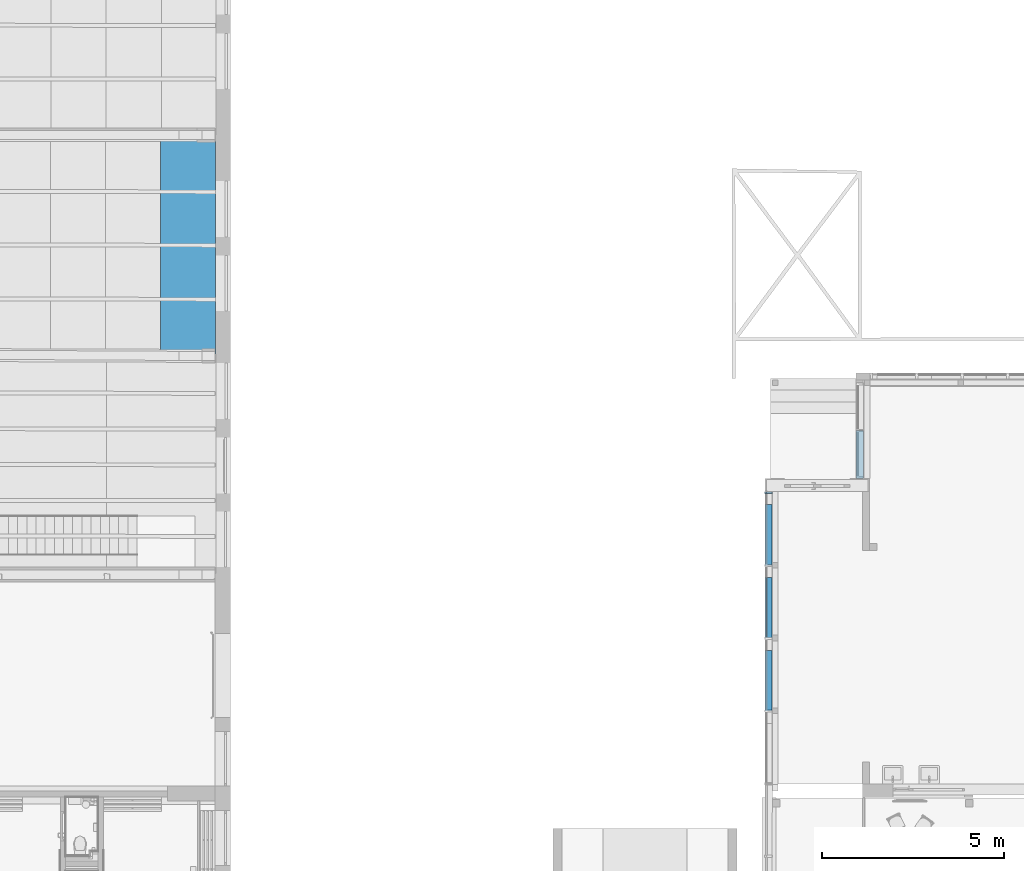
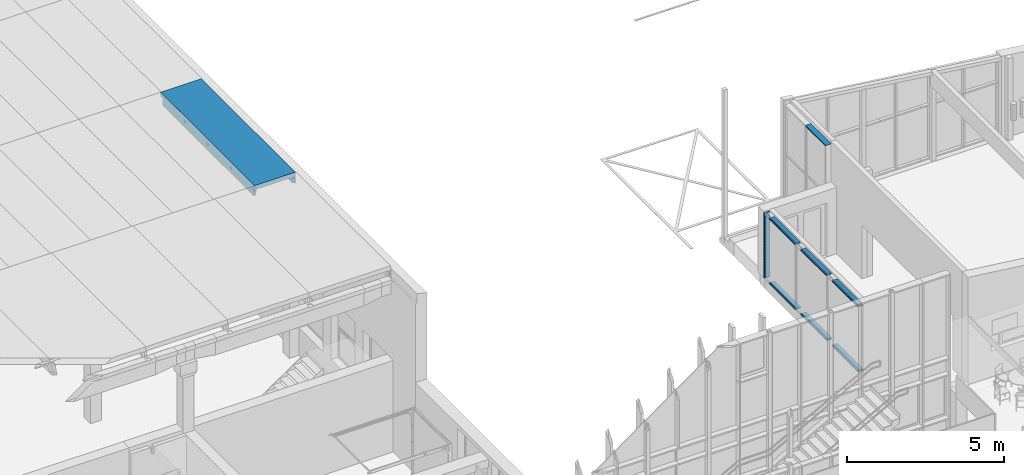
# One storey, part 43 of 301: 8 members, 1 beam, 2 elements without a shape of their own.
"""IFC2X3 building model written with IfcOpenShell, lengths in millimetres."""

from ifc_helpers import new_model, entity, si_unit, converted_unit, derived_unit, money_unit, direction, frame, origin_with_axes, place, context, subcontext, project, spatial, faceted_brep, material, type_object, element, aggregate, save


model = new_model("IFC2X3")

# Units and contexts
model_context = context("Model", 3, precision=0.01, world=origin_with_axes(), true_north=direction((0.0, 1.0)))
body_context = subcontext(model_context, "Body", "Model", "MODEL_VIEW")
ifc_project = project(units=[si_unit("LENGTHUNIT", "METRE", prefix="MILLI"), si_unit("AREAUNIT", "SQUARE_METRE"), si_unit("VOLUMEUNIT", "CUBIC_METRE"), converted_unit("PLANEANGLEUNIT", "DEGREE", entity("IfcPlaneAngleMeasure", 0.0174532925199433), si_unit("PLANEANGLEUNIT", "RADIAN"), dimensions=[0, 0, 0, 0, 0, 0, 0]), money_unit("EUR"), converted_unit("TIMEUNIT", "Year", entity("IfcTimeMeasure", 31557600.0), si_unit("TIMEUNIT", "SECOND"), dimensions=[0, 0, 1, 0, 0, 0, 0]), si_unit("MASSUNIT", "GRAM", prefix="KILO"), si_unit("THERMODYNAMICTEMPERATUREUNIT", "DEGREE_CELSIUS"), si_unit("LUMINOUSINTENSITYUNIT", "LUMEN"), si_unit("ENERGYUNIT", "JOULE", prefix="MEGA"), derived_unit("THERMALCONDUCTANCEUNIT", [(si_unit("POWERUNIT", "WATT"), 1), (si_unit("LENGTHUNIT", "METRE"), -1), (si_unit("THERMODYNAMICTEMPERATUREUNIT", "KELVIN"), -1)]), derived_unit("SPECIFICHEATCAPACITYUNIT", [(si_unit("ENERGYUNIT", "JOULE"), 1), (si_unit("MASSUNIT", "GRAM", prefix="KILO"), -1), (si_unit("THERMODYNAMICTEMPERATUREUNIT", "KELVIN"), -1)]), derived_unit("MASSDENSITYUNIT", [(si_unit("MASSUNIT", "GRAM", prefix="KILO"), 1), (si_unit("VOLUMEUNIT", "CUBIC_METRE"), -1)])], contexts=[model_context])

# Site, building, storey
site_placement = place(None, frame((0.0, 0.0, 8650.0), z_axis=(0.0, 0.0, 1.0), x_axis=(1.0, 0.0, 0.0)))
site = spatial("IfcSite", under=ifc_project, at=site_placement, Name="43301:001:0844", CompositionType="ELEMENT")
building_placement = place(site_placement, origin_with_axes())
building = spatial("IfcBuilding", under=site, at=building_placement, Name="Kuressaare Ametikooli tuulikute mehaanikute õppekorpus", CompositionType="ELEMENT")
storey_placement = place(building_placement, origin_with_axes())
storey = spatial("IfcBuildingStorey", under=building, at=storey_placement, Name="1.korrus", CompositionType="ELEMENT", Elevation=0.0)

# Curtain wall, members
curtain_wall_type = type_object("IfcCurtainWallType", Name="Curtain Wall Type", PredefinedType="NOTDEFINED")
curtain_wall_1_placement = place(storey_placement, frame((118344.5490393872, 39517.28066569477, -20.0), z_axis=(0.0, 0.0, 1.0), x_axis=(1.0, 0.0, 0.0)))
curtain_wall_1 = element("IfcCurtainWall", 1, at=curtain_wall_1_placement, inside=storey, type_object=curtain_wall_type, Name="KF-XX")
ifc_material_1 = material(Name="Metall - Alumiinium")
member_type_1 = type_object("IfcMemberType", Name="Boundary Frame 50 x 200", PredefinedType="NOTDEFINED")
member_1_placement = place(curtain_wall_1_placement, frame((0.0, 449.9803372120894, 0.0), z_axis=(0.0, -1.0, 0.0), x_axis=(0.0, 0.0, 1.0)))
member_1 = element("IfcMember", 2, at=member_1_placement, type_object=member_type_1, material=ifc_material_1, context=body_context, shape_type="Brep", body=[
    faceted_brep([(35.00000000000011, -10.00000000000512, 1676.514106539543), (35.00000000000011, 10.00000000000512, 1676.514106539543), (50.00000000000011, 10.00000000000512, 1676.514106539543), (50.00000000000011, 49.99999999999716, 1676.514106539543), (0.0, 49.99999999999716, 1676.514106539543), (0.0, 0.0, 1676.514106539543), (0.0, -150.0000000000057, 1676.514106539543), (50.0000000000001, -150.0000000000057, 1676.514106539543), (50.00000000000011, -10.00000000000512, 1676.514106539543), (35.0, -10.00000000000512, 0.0), (35.0, 10.00000000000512, 0.0), (50.0, 10.00000000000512, 0.0), (50.0, 49.99999999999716, 0.0), (0.0, 49.99999999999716, 0.0), (0.0, 0.0, 0.0), (0.0, -150.0000000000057, 0.0), (49.99999999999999, -150.0000000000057, 0.0), (50.0, -10.00000000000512, 0.0)], [[[0, 1, 2, 3, 4, 5, 6, 7, 8]], [[1, 0, 9, 10]], [[11, 2, 1, 10]], [[2, 11, 12, 3]], [[13, 4, 3, 12]], [[14, 5, 4, 13]], [[15, 6, 5, 14]], [[16, 7, 6, 15]], [[17, 8, 7, 16]], [[0, 8, 17, 9]], [[9, 17, 16, 15, 14, 13, 12, 11, 10]]]),
])
member_2_placement = place(curtain_wall_1_placement, frame((0.0, -3550.01966278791, 0.0), z_axis=(0.0, -1.0, 0.0), x_axis=(0.0, 0.0, 1.0)))
member_2 = element("IfcMember", 3, at=member_2_placement, type_object=member_type_1, material=ifc_material_1, context=body_context, shape_type="Brep", body=[
    faceted_brep([(35.00000000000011, -10.00000000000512, 1662.657468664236), (35.00000000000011, 10.00000000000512, 1662.657468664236), (50.00000000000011, 10.00000000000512, 1662.657468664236), (50.00000000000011, 49.99999999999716, 1662.657468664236), (0.0, 49.99999999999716, 1662.657468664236), (0.0, 0.0, 1662.657468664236), (0.0, -150.0000000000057, 1662.657468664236), (50.0000000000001, -150.0000000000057, 1662.657468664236), (50.00000000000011, -10.00000000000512, 1662.657468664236), (35.0, -10.00000000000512, 0.0), (35.0, 10.00000000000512, 0.0), (50.0, 10.00000000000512, 0.0), (50.0, 49.99999999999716, 0.0), (0.0, 49.99999999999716, 0.0), (0.0, 0.0, 0.0), (0.0, -150.0000000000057, 0.0), (49.99999999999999, -150.0000000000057, 0.0), (50.0, -10.00000000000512, 0.0)], [[[0, 1, 2, 3, 4, 5, 6, 7, 8]], [[1, 0, 9, 10]], [[11, 2, 1, 10]], [[2, 11, 12, 3]], [[13, 4, 3, 12]], [[14, 5, 4, 13]], [[15, 6, 5, 14]], [[16, 7, 6, 15]], [[17, 8, 7, 16]], [[0, 8, 17, 9]], [[9, 17, 16, 15, 14, 13, 12, 11, 10]]]),
])
member_3_placement = place(curtain_wall_1_placement, frame((0.0, 776.5534321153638, 2530.000039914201), z_axis=(0.0, 0.0, -1.0), x_axis=(0.0, -1.0, 0.0)))
member_3 = element("IfcMember", 4, at=member_3_placement, type_object=member_type_1, material=ifc_material_1, context=body_context, shape_type="Brep", body=[
    faceted_brep([(-9.99999999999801, -10.00000000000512, 2510.000039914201), (-24.99999999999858, -10.00000000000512, 2480.000039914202), (-24.99999999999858, -150.0000000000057, 2480.000039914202), (0.0, -150.0000000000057, 2530.000039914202), (0.0, 49.99999999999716, 2530.000039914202), (-24.99999999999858, 49.99999999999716, 2480.000039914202), (-24.99999999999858, 10.00000000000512, 2480.000039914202), (-9.99999999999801, 10.00000000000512, 2510.000039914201), (-9.99999999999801, -10.00000000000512, -24.99999999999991), (-24.99999999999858, -10.00000000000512, -24.99999999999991), (-24.99999999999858, -150.0000000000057, -24.99999999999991), (24.99999999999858, -150.0000000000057, 2480.000039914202), (24.99999999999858, -150.0000000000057, -24.99999999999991), (24.99999999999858, -10.00000000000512, 2480.000039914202), (9.99999999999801, -10.00000000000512, 2510.000039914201), (9.99999999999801, 10.00000000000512, 2510.000039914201), (24.99999999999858, 10.00000000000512, 2480.000039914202), (24.99999999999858, 49.99999999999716, 2480.000039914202), (-24.99999999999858, 49.99999999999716, -24.99999999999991), (24.99999999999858, 49.99999999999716, -24.99999999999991), (-24.99999999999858, 10.00000000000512, -24.99999999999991), (-9.99999999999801, 10.00000000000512, -24.99999999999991), (24.99999999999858, 10.00000000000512, -24.99999999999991), (9.99999999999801, 10.00000000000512, -24.99999999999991), (9.99999999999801, -10.00000000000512, -24.99999999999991), (24.99999999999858, -10.00000000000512, -24.99999999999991)], [[[0, 1, 2, 3, 4, 5, 6, 7]], [[1, 0, 8, 9]], [[1, 9, 10, 2]], [[11, 3, 2, 10, 12]], [[3, 11, 13, 14, 15, 16, 17, 4]], [[18, 5, 4, 17, 19]], [[20, 6, 5, 18]], [[7, 6, 20, 21]], [[0, 7, 21, 8]], [[21, 20, 18, 19, 22, 23, 24, 25, 12, 10, 9, 8]], [[13, 11, 12, 25]], [[13, 25, 24, 14]], [[14, 24, 23, 15]], [[16, 15, 23, 22]], [[22, 19, 17, 16]]]),
])
member_4_placement = place(curtain_wall_1_placement, frame((0.0, -1550.019662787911, 0.0), z_axis=(0.0, -1.0, 0.0), x_axis=(0.0, 0.0, 1.0)))
member_4 = element("IfcMember", 5, at=member_4_placement, type_object=member_type_1, material=ifc_material_1, context=body_context, shape_type="Brep", body=[
    faceted_brep([(35.00000000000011, -10.00000000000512, 1666.514103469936), (35.00000000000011, 10.00000000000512, 1666.514103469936), (50.00000000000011, 10.00000000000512, 1666.514103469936), (50.00000000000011, 49.99999999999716, 1666.514103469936), (0.0, 49.99999999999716, 1666.514103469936), (0.0, 0.0, 1666.514103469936), (0.0, -150.0000000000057, 1666.514103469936), (50.0000000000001, -150.0000000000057, 1666.514103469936), (50.00000000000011, -10.00000000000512, 1666.514103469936), (35.0, -10.00000000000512, 0.0), (35.0, 10.00000000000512, 0.0), (50.0, 10.00000000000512, 0.0), (50.0, 49.99999999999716, 0.0), (0.0, 49.99999999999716, 0.0), (0.0, 0.0, 0.0), (0.0, -150.0000000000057, 0.0), (49.99999999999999, -150.0000000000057, 0.0), (50.0, -10.00000000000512, 0.0)], [[[0, 1, 2, 3, 4, 5, 6, 7, 8]], [[1, 0, 9, 10]], [[11, 2, 1, 10]], [[2, 11, 12, 3]], [[13, 4, 3, 12]], [[14, 5, 4, 13]], [[15, 6, 5, 14]], [[16, 7, 6, 15]], [[17, 8, 7, 16]], [[0, 8, 17, 9]], [[9, 17, 16, 15, 14, 13, 12, 11, 10]]]),
])

# Curtain wall, member
curtain_wall_2_placement = place(storey_placement, frame((120847.1885681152, 42644.61724537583, 0.0), z_axis=(0.0, 0.0, 1.0), x_axis=(1.0, 0.0, 0.0)))
curtain_wall_2 = element("IfcCurtainWall", 6, at=curtain_wall_2_placement, inside=storey, type_object=curtain_wall_type)
member_5_placement = place(curtain_wall_2_placement, frame((0.0, -654.9999999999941, 4050.000039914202), z_axis=(0.0, -1.0, 0.0), x_axis=(0.0, 0.0, 1.0)))
member_5 = element("IfcMember", 7, at=member_5_placement, type_object=member_type_1, material=ifc_material_1, context=body_context, shape_type="Brep", body=[
    faceted_brep([(-35.00000000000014, -10.00000000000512, 1274.950532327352), (-49.99999999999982, -10.00000000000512, 1259.950532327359), (-49.99999999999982, -150.0000000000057, 1259.950532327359), (0.0, -150.0000000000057, 1309.950532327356), (0.0, 0.0, 1309.950532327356), (0.0, 49.99999999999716, 1309.950532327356), (-49.99999999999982, 49.99999999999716, 1259.950532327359), (-49.99999999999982, 10.00000000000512, 1259.950532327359), (-35.00000000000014, 10.00000000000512, 1274.950532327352), (-35.00000000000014, -10.00000000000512, 17.49999999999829), (-49.99999999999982, -10.00000000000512, 24.99999999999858), (-49.99999999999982, -150.0000000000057, 24.99999999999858), (0.0, -150.0000000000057, 0.0), (0.0, 0.0, 0.0), (0.0, 49.99999999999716, 0.0), (-49.99999999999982, 49.99999999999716, 24.99999999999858), (-49.99999999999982, 10.00000000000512, 24.99999999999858), (-35.00000000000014, 10.00000000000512, 17.49999999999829)], [[[0, 1, 2, 3, 4, 5, 6, 7, 8]], [[0, 9, 10, 1]], [[10, 11, 2, 1]], [[2, 11, 12, 3]], [[3, 12, 13, 4]], [[4, 13, 14, 5]], [[5, 14, 15, 6]], [[7, 6, 15, 16]], [[16, 17, 8, 7]], [[8, 17, 9, 0]], [[9, 17, 16, 15, 14, 13, 12, 11, 10]]]),
])
aggregate(curtain_wall_2, [member_5])

# Member
member_type_2 = type_object("IfcMemberType", Name="Transom Frame 50 x 200", PredefinedType="NOTDEFINED")
member_6_placement = place(curtain_wall_1_placement, frame((0.0, 449.9803372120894, 2530.000039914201), z_axis=(0.0, -1.0, 0.0), x_axis=(0.0, 0.0, 1.0)))
member_6 = element("IfcMember", 8, at=member_6_placement, type_object=member_type_2, material=ifc_material_1, context=body_context, shape_type="Brep", body=[
    faceted_brep([(-9.999999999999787, -10.00000000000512, 1651.514106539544), (-24.99999999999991, -10.00000000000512, 1651.514106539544), (-24.99999999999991, -150.0000000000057, 1651.514106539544), (24.99999999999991, -150.0000000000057, 1651.514106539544), (24.99999999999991, -10.00000000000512, 1651.514106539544), (10.00000000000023, -10.00000000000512, 1651.514106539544), (10.00000000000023, 10.00000000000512, 1651.514106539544), (24.99999999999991, 10.00000000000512, 1651.514106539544), (24.99999999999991, 49.99999999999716, 1651.514106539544), (-24.99999999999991, 49.99999999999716, 1651.514106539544), (-24.99999999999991, 10.00000000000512, 1651.514106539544), (-9.999999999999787, 10.00000000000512, 1651.514106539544), (-9.999999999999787, -10.00000000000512, 0.0), (-24.99999999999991, -10.00000000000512, 0.0), (-24.99999999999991, -150.0000000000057, 0.0), (24.99999999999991, -150.0000000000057, 0.0), (24.99999999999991, -10.00000000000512, 0.0), (9.999999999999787, -10.00000000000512, 0.0), (9.999999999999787, 10.00000000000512, 0.0), (24.99999999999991, 10.00000000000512, 0.0), (24.99999999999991, 49.99999999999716, 0.0), (-24.99999999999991, 49.99999999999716, 0.0), (-24.99999999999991, 10.00000000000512, 0.0), (-9.999999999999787, 10.00000000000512, 0.0)], [[[0, 1, 2, 3, 4, 5, 6, 7, 8, 9, 10, 11]], [[1, 0, 12, 13]], [[1, 13, 14, 2]], [[3, 2, 14, 15]], [[4, 3, 15, 16]], [[4, 16, 17, 5]], [[5, 17, 18, 6]], [[7, 6, 18, 19]], [[19, 20, 8, 7]], [[9, 8, 20, 21]], [[22, 10, 9, 21]], [[11, 10, 22, 23]], [[0, 11, 23, 12]], [[23, 22, 21, 20, 19, 18, 17, 16, 15, 14, 13, 12]]]),
])

member_7_placement = place(curtain_wall_1_placement, frame((0.0, -1550.019662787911, 2530.000039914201), z_axis=(0.0, -1.0, 0.0), x_axis=(0.0, 0.0, 1.0)))
member_7 = element("IfcMember", 9, at=member_7_placement, type_object=member_type_2, material=ifc_material_1, context=body_context, shape_type="Brep", body=[
    faceted_brep([(-9.999999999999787, -10.00000000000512, 1641.514103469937), (-24.99999999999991, -10.00000000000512, 1641.514103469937), (-24.99999999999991, -150.0000000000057, 1641.514103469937), (24.99999999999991, -150.0000000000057, 1641.514103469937), (24.99999999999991, -10.00000000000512, 1641.514103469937), (10.00000000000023, -10.00000000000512, 1641.514103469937), (10.00000000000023, 10.00000000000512, 1641.514103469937), (24.99999999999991, 10.00000000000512, 1641.514103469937), (24.99999999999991, 49.99999999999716, 1641.514103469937), (-24.99999999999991, 49.99999999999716, 1641.514103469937), (-24.99999999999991, 10.00000000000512, 1641.514103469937), (-9.999999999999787, 10.00000000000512, 1641.514103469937), (-9.999999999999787, -10.00000000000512, 0.0), (-24.99999999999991, -10.00000000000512, 0.0), (-24.99999999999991, -150.0000000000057, 0.0), (24.99999999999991, -150.0000000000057, 0.0), (24.99999999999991, -10.00000000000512, 0.0), (9.999999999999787, -10.00000000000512, 0.0), (9.999999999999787, 10.00000000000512, 0.0), (24.99999999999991, 10.00000000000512, 0.0), (24.99999999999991, 49.99999999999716, 0.0), (-24.99999999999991, 49.99999999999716, 0.0), (-24.99999999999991, 10.00000000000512, 0.0), (-9.999999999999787, 10.00000000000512, 0.0)], [[[0, 1, 2, 3, 4, 5, 6, 7, 8, 9, 10, 11]], [[1, 0, 12, 13]], [[1, 13, 14, 2]], [[3, 2, 14, 15]], [[4, 3, 15, 16]], [[4, 16, 17, 5]], [[5, 17, 18, 6]], [[7, 6, 18, 19]], [[19, 20, 8, 7]], [[9, 8, 20, 21]], [[22, 10, 9, 21]], [[11, 10, 22, 23]], [[0, 11, 23, 12]], [[23, 22, 21, 20, 19, 18, 17, 16, 15, 14, 13, 12]]]),
])

member_8_placement = place(curtain_wall_1_placement, frame((0.0, -3550.01966278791, 2530.000039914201), z_axis=(0.0, -1.0, 0.0), x_axis=(0.0, 0.0, 1.0)))
member_8 = element("IfcMember", 10, at=member_8_placement, type_object=member_type_2, material=ifc_material_1, context=body_context, shape_type="Brep", body=[
    faceted_brep([(-9.999999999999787, -10.00000000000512, 1637.657468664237), (-24.99999999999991, -10.00000000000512, 1637.657468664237), (-24.99999999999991, -150.0000000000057, 1637.657468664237), (24.99999999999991, -150.0000000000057, 1637.657468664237), (24.99999999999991, -10.00000000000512, 1637.657468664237), (10.00000000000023, -10.00000000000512, 1637.657468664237), (10.00000000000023, 10.00000000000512, 1637.657468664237), (24.99999999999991, 10.00000000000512, 1637.657468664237), (24.99999999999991, 49.99999999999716, 1637.657468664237), (-24.99999999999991, 49.99999999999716, 1637.657468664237), (-24.99999999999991, 10.00000000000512, 1637.657468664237), (-9.999999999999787, 10.00000000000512, 1637.657468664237), (-9.999999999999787, -10.00000000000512, 0.0), (-24.99999999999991, -10.00000000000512, 0.0), (-24.99999999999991, -150.0000000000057, 0.0), (24.99999999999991, -150.0000000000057, 0.0), (24.99999999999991, -10.00000000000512, 0.0), (9.999999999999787, -10.00000000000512, 0.0), (9.999999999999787, 10.00000000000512, 0.0), (24.99999999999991, 10.00000000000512, 0.0), (24.99999999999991, 49.99999999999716, 0.0), (-24.99999999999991, 49.99999999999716, 0.0), (-24.99999999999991, 10.00000000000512, 0.0), (-9.999999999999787, 10.00000000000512, 0.0)], [[[0, 1, 2, 3, 4, 5, 6, 7, 8, 9, 10, 11]], [[1, 0, 12, 13]], [[1, 13, 14, 2]], [[3, 2, 14, 15]], [[4, 3, 15, 16]], [[4, 16, 17, 5]], [[5, 17, 18, 6]], [[7, 6, 18, 19]], [[19, 20, 8, 7]], [[9, 8, 20, 21]], [[22, 10, 9, 21]], [[11, 10, 22, 23]], [[0, 11, 23, 12]], [[23, 22, 21, 20, 19, 18, 17, 16, 15, 14, 13, 12]]]),
])

aggregate(curtain_wall_1, [member_6, member_7, member_8, member_1, member_2, member_3, member_4])

# Beam
ifc_material_2 = material(Name="GENEERILINE - KONSTRUKTRIOON")
beam_type = type_object("IfcBeamType", Name="Precast Double Tee 2 1500 x 440", PredefinedType="NOTDEFINED")
beam_placement = place(storey_placement, frame((102485.8777537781, 50085.34031405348, 7100.0), z_axis=(0.0, 0.0, 1.0), x_axis=(-1.0, 0.0, 0.0)))
element("IfcBeam", 11, at=beam_placement, inside=storey, type_object=beam_type, material=ifc_material_2, context=body_context, shape_type="Brep", body=[
    faceted_brep([(586.8200850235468, 0.0, -169.8234995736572), (729.9999999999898, 0.0, -169.8234995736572), (729.9999999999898, 0.0, 0.0), (-750.0, 0.0, 0.0), (-750.0, 0.0, -169.8234995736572), (-584.2531439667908, 0.0, -169.8234995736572), (750.0, 0.03558289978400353, -169.8234995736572), (729.9999999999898, 0.03558289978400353, -169.8234995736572), (586.8200850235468, 177.4335904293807, -169.8234995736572), (750.0, 177.3880320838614, -169.8234995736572), (729.9999999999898, 0.03558289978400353, 0.0), (750.0, 0.03558289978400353, 0.0), (750.0, 6000.18802817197, 0.0), (-750.0, 6000.18802817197, 0.0), (-750.0, 6000.18802817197, -440.0001340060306), (-750.0, 0.0, -440.0001340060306), (-750.0, 1507.406994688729, -175.3977593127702), (-750.0, 1511.981634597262, -184.1935020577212), (-750.0, 1532.722581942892, -271.7709778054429), (-750.0, 1572.722635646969, -271.7709778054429), (-750.0, 1593.462621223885, -184.1936973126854), (-750.0, 1598.037240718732, -175.3978342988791), (-750.0, 1606.236098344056, -169.8234995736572), (-750.0, 1499.208203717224, -169.8234995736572), (-750.0, 2977.822335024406, -184.1935020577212), (-750.0, 2998.563282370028, -271.7709778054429), (-750.0, 3038.563336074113, -271.7709778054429), (-750.0, 3059.303321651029, -184.1936973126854), (-750.0, 3063.877941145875, -175.3978342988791), (-750.0, 3072.076798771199, -169.8234995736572), (-750.0, 2965.048904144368, -169.8234995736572), (-750.0, 2973.247695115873, -175.3977593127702), (-750.0, 4478.655582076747, -271.7709778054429), (-750.0, 4518.655635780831, -271.7709778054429), (-750.0, 4539.395621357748, -184.1936973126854), (-750.0, 4543.970240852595, -175.3978342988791), (-750.0, 4552.169098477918, -169.8234995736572), (-750.0, 4445.141203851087, -169.8234995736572), (-750.0, 4453.339994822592, -175.3977593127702), (-750.0, 4457.914634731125, -184.1935020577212), (-749.9503579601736, 177.8068045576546, -169.8234995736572), (-584.2531439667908, 177.760543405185, -169.8234995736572), (-584.2531439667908, 1605.964495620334, -169.8234995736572), (-584.2531439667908, 2964.777301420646, -169.8234995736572), (-584.2531439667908, 3071.805196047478, -169.8234995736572), (-584.2531439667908, 4444.869601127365, -169.8234995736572), (-584.2531439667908, 4551.897495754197, -169.8234995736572), (-584.2531439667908, 5872.163060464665, -169.8234995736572), (586.8200850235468, 5868.193286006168, -169.8234995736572), (586.8200850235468, 4549.978505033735, -169.8234995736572), (586.8200850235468, 4442.950610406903, -169.8234995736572), (586.8200850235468, 3069.886205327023, -169.8234995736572), (586.8200850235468, 2962.858310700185, -169.8234995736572), (586.8200850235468, 1604.045504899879, -169.8234995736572), (586.8200850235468, 1497.017610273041, -169.8234995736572), (-584.2531439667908, 1498.936600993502, -169.8234995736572), (604.4404036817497, 175.3850199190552, -171.9734684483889), (620.1516209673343, 167.5274838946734, -180.2351660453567), (621.1429266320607, 166.4614595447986, -181.3563575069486), (750.0, 166.4254838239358, -181.3563575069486), (750.0, 134.7530058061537, -222.3718083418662), (750.0, 109.161015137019, -267.4324680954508), (750.0, 109.1604925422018, -440.0001340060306), (750.0, 5935.085279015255, -440.0001340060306), (750.0, 5935.084753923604, -266.6089685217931), (750.0, 5909.492617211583, -221.5483087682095), (750.0, 5877.819958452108, -180.5328579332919), (750.0, 5866.857347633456, -168.9999999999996), (750.0, 6000.18802817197, -168.9999999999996), (750.0, 1603.778108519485, -169.8234995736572), (750.0, 1595.579250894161, -175.3978342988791), (750.0, 1591.004631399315, -184.1936973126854), (750.0, 1570.264645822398, -271.7709778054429), (750.0, 1530.264592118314, -271.7709778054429), (750.0, 1509.523644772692, -184.1935020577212), (750.0, 1504.949004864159, -175.3977593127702), (750.0, 1496.750213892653, -169.8234995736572), (750.0, 3061.419951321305, -175.3978342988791), (750.0, 3056.845331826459, -184.1936973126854), (750.0, 3036.105346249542, -271.7709778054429), (750.0, 2996.105292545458, -271.7709778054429), (750.0, 2975.364345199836, -184.1935020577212), (750.0, 2970.789705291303, -175.3977593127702), (750.0, 2962.590914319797, -169.8234995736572), (750.0, 3069.618808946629, -169.8234995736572), (750.0, 4536.937631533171, -184.1936973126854), (750.0, 4516.197645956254, -271.7709778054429), (750.0, 4476.19759225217, -271.7709778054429), (750.0, 4455.456644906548, -184.1935020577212), (750.0, 4450.882004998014, -175.3977593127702), (750.0, 4442.683214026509, -169.8234995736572), (750.0, 4549.71110865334, -169.8234995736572), (750.0, 4541.512251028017, -175.3978342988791), (-741.8251678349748, 6000.18802817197, -168.9999999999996), (-741.8251678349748, 6000.18802817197, -440.0001340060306), (-749.9694064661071, 109.5792703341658, -440.0001340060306), (-742.028711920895, 5940.14304767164, -440.0001340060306), (-674.9999969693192, 5939.915829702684, -440.0001340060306), (-674.9999969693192, 109.5583395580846, -440.0001340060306), (-749.9694063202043, 109.5797929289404, -267.4324680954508), (-749.9622612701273, 135.1717816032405, -222.3718083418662), (-749.9534186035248, 166.8442571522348, -181.3563575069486), (-607.4338079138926, 1507.173377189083, -175.3977593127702), (-621.7526411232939, 1511.708514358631, -184.072435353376), (-621.847180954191, 1511.771635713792, -184.1935020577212), (-634.3038197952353, 1515.56991728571, -200.1453415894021), (-640.3274701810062, 1520.193933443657, -219.6283094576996), (-648.5314139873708, 1532.556309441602, -271.7709778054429), (-648.5314139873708, 1572.556363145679, -271.7709778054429), (-640.3274701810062, 1584.891307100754, -219.6283094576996), (-634.3038197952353, 1589.495378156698, -200.1453415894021), (-621.8473334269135, 1593.252622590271, -184.1936973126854), (-621.7526411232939, 1593.315534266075, -184.072435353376), (-607.4339316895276, 1597.80362342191, -175.3978342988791), (-604.310838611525, 1600.581362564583, -173.5057932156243), (-604.310838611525, 1504.385498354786, -173.5057932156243), (-621.8471809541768, 2977.612336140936, -184.1935020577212), (-634.3038197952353, 2981.410617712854, -200.1453415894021), (-640.3274701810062, 2986.034633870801, -219.6283094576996), (-648.5314139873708, 2998.397009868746, -271.7709778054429), (-648.5314139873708, 3038.397063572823, -271.7709778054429), (-640.3274701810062, 3050.732007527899, -219.6283094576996), (-634.3038197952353, 3055.336078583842, -200.1453415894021), (-621.8473334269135, 3059.093323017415, -184.1936973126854), (-621.7526411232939, 3059.156234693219, -184.072435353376), (-607.4339316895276, 3063.644323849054, -175.3978342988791), (-604.310838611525, 3066.422062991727, -173.5057932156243), (-604.310838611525, 2970.22619878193, -173.5057932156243), (-607.4338079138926, 2973.014077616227, -175.3977593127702), (-621.7526411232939, 2977.549214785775, -184.072435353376), (-648.5314139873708, 4478.489309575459, -271.7709778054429), (-648.5314139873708, 4518.489363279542, -271.7709778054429), (-640.3274701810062, 4530.824307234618, -219.6283094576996), (-634.3038197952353, 4535.428378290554, -200.1453415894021), (-621.8473334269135, 4539.185622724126, -184.1936973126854), (-621.7526411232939, 4539.248534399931, -184.072435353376), (-607.4339316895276, 4543.736623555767, -175.3978342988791), (-604.310838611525, 4546.514362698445, -173.5057932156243), (-604.310838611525, 4450.318498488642, -173.5057932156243), (-607.4338079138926, 4453.106377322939, -175.3977593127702), (-621.7526411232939, 4457.641514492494, -184.072435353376), (-621.8471809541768, 4457.704635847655, -184.1935020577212), (-634.3038197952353, 4461.502917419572, -200.1453415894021), (-640.3274701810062, 4466.126933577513, -219.6283094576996), (-617.2693537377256, 166.8072129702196, -181.3563575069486), (-604.310838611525, 174.2659422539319, -173.5057932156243), (-604.310838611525, 5875.731274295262, -173.5057932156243), (620.4148263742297, 5878.259234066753, -180.5328579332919), (620.1516209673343, 5877.977153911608, -180.2351660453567), (604.4404036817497, 5870.177218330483, -171.9734684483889), (-615.9100461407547, 5882.450202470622, -180.5328579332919), (-742.2228311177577, 5882.878385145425, -180.5328579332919), (-742.2599924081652, 5871.915900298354, -168.9999999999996), (604.4404036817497, 4546.787408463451, -171.9734684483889), (604.4404036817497, 4446.083976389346, -171.9734684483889), (604.4404036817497, 3066.69510875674, -171.9734684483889), (604.4404036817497, 2965.991676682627, -171.9734684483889), (604.4404036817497, 1600.854408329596, -171.9734684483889), (604.4404036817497, 1500.150976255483, -171.9734684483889), (610.952355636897, 1505.17685666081, -175.3977593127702), (620.1516209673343, 1507.677703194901, -180.2351660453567), (631.9095256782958, 1511.929179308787, -193.5336498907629), (631.9095256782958, 157.055045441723, -193.5336498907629), (623.651398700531, 1509.730687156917, -184.1935020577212), (638.1842783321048, 144.2307849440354, -210.1386333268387), (640.4097012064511, 134.7836024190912, -222.3718083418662), (648.6070026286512, 109.1893231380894, -267.4324680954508), (680.0000000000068, 109.1800359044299, -440.0001340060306), (680.0000000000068, 5935.322569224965, -440.0001340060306), (648.4571940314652, 5935.428969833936, -266.6089685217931), (640.2598926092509, 5909.864620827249, -221.5483087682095), (631.9095256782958, 5888.259647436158, -193.5336498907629), (638.1842783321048, 5901.060958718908, -210.1386333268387), (610.952498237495, 1595.807102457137, -175.3978342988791), (620.1516209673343, 1593.276191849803, -180.2351660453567), (623.651571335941, 1591.211673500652, -184.1936973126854), (631.9095256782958, 1588.986260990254, -193.5336498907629), (638.1842783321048, 1585.043599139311, -210.1386333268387), (649.3962514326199, 1570.429501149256, -271.7709778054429), (649.3962514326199, 1530.429447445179, -271.7709778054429), (638.1842783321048, 1515.851450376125, -210.1386333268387), (620.1516209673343, 3059.116892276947, -180.2351660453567), (623.651571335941, 3057.052373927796, -184.1936973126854), (610.952498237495, 3061.647802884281, -175.3978342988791), (638.1842783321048, 3050.884299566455, -210.1386333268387), (649.3962514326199, 3036.2702015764, -271.7709778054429), (631.9095256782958, 3054.826961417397, -193.5336498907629), (649.3962514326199, 2996.270147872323, -271.7709778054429), (638.1842783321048, 2981.692150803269, -210.1386333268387), (631.9095256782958, 2977.769879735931, -193.5336498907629), (623.651398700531, 2975.571387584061, -184.1935020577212), (610.952355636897, 2971.017557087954, -175.3977593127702), (620.1516209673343, 2973.518403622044, -180.2351660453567), (649.3962514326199, 4516.362501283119, -271.7709778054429), (623.651571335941, 4537.144673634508, -184.1936973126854), (631.9095256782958, 4534.919261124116, -193.5336498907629), (638.1842783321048, 4530.976599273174, -210.1386333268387), (649.3962514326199, 4476.362447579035, -271.7709778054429), (638.1842783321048, 4461.784450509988, -210.1386333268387), (631.9095256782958, 4457.86217944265, -193.5336498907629), (623.651398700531, 4455.66368729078, -184.1935020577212), (620.1516209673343, 4453.610703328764, -180.2351660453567), (610.952355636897, 4451.109856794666, -175.3977593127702), (610.952498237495, 4541.740102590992, -175.3978342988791), (620.1516209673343, 4539.209191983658, -180.2351660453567), (-742.0287137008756, 5940.142522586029, -266.6089685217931), (-742.1154664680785, 5914.550679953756, -221.5483087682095), (-647.7192416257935, 5939.822826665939, -266.6089685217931), (-640.6295561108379, 5914.206656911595, -221.5483087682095), (-640.3274701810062, 5912.722984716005, -219.6283094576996), (-640.3274701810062, 137.25972560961, -219.6283094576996), (-640.7591226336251, 135.1412930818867, -222.3718083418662), (-647.8488081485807, 109.5512817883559, -267.4324680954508), (-634.3038197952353, 152.3029564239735, -200.1453415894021), (-621.7526411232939, 164.711086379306, -184.072435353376), (-634.3038197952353, 5897.657566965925, -200.1453415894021), (-621.7526411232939, 5885.203315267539, -184.072435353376)], [[[0, 1, 2, 3, 4, 5]], [[6, 7, 1, 0, 8, 9]], [[7, 10, 2, 1]], [[2, 10, 11, 12, 13, 3]], [[4, 3, 13, 14, 15], [16, 17, 18, 19, 20, 21, 22, 23], [24, 25, 26, 27, 28, 29, 30, 31], [32, 33, 34, 35, 36, 37, 38, 39]], [[4, 40, 41, 5]], [[42, 43, 44, 45, 46, 47, 48, 49, 50, 51, 52, 53, 54, 8, 0, 5, 41, 55]], [[6, 11, 10, 7]], [[9, 8, 56, 57, 58, 59]], [[12, 11, 6, 9, 59, 60, 61, 62, 63, 64, 65, 66, 67, 68], [69, 70, 71, 72, 73, 74, 75, 76], [77, 78, 79, 80, 81, 82, 83, 84], [85, 86, 87, 88, 89, 90, 91, 92]], [[93, 94, 14, 13, 12, 68]], [[95, 15, 14, 94, 96, 97, 98]], [[4, 15, 95, 99, 100, 101, 40]], [[17, 16, 102, 103, 104]], [[17, 104, 105, 106, 107, 18]], [[108, 19, 18, 107]], [[19, 108, 109, 110, 111, 20]], [[21, 20, 111, 112, 113]], [[22, 21, 113, 114, 42]], [[55, 23, 22, 42]], [[16, 23, 55, 115, 102]], [[116, 117, 118, 119, 25, 24]], [[26, 25, 119, 120]], [[120, 121, 122, 123, 27, 26]], [[27, 123, 124, 125, 28]], [[28, 125, 126, 44, 29]], [[30, 29, 44, 43]], [[30, 43, 127, 128, 31]], [[31, 128, 129, 116, 24]], [[32, 130, 131, 33]], [[132, 133, 134, 34, 33, 131]], [[134, 135, 136, 35, 34]], [[136, 137, 46, 36, 35]], [[36, 46, 45, 37]], [[45, 138, 139, 38, 37]], [[139, 140, 141, 39, 38]], [[142, 143, 130, 32, 39, 141]], [[40, 101, 144, 145, 41]], [[127, 43, 42, 114]], [[45, 44, 126, 138]], [[137, 146, 47, 46]], [[66, 147, 148, 149, 48, 47, 146, 150, 151, 152, 67]], [[49, 48, 149, 153]], [[49, 91, 90, 50]], [[154, 155, 51, 50]], [[52, 51, 84, 83]], [[52, 156, 157, 53]], [[76, 54, 53, 69]], [[8, 54, 158, 56]], [[145, 115, 55, 41]], [[159, 160, 57, 56, 158]], [[161, 162, 58, 57, 160, 163]], [[59, 58, 162, 164, 165, 60]], [[166, 61, 60, 165]], [[167, 62, 61, 166]], [[62, 167, 168, 63]], [[64, 63, 168, 169]], [[65, 64, 169, 170]], [[171, 147, 66, 65, 170, 172]], [[67, 152, 93, 68]], [[53, 157, 173, 70, 69]], [[173, 174, 175, 71, 70]], [[176, 177, 178, 72, 71, 175]], [[72, 178, 179, 73]], [[163, 74, 73, 179, 180, 161]], [[160, 159, 75, 74, 163]], [[158, 54, 76, 75, 159]], [[181, 182, 78, 77, 183]], [[184, 185, 79, 78, 182, 186]], [[185, 187, 80, 79]], [[81, 80, 187, 188, 189, 190]], [[191, 82, 81, 190, 192]], [[52, 83, 82, 191, 156]], [[155, 183, 77, 84, 51]], [[193, 86, 85, 194, 195, 196]], [[197, 87, 86, 193]], [[87, 197, 198, 199, 200, 88]], [[89, 88, 200, 201, 202]], [[90, 89, 202, 154, 50]], [[203, 92, 91, 49, 153]], [[194, 85, 92, 203, 204]], [[205, 96, 94, 93, 152, 151, 206]], [[205, 207, 97, 96]], [[207, 208, 209, 132, 131, 130, 143, 121, 120, 119, 118, 109, 108, 107, 106, 210, 211, 212, 98, 97]], [[98, 212, 99, 95]], [[211, 100, 99, 212]], [[211, 210, 213, 214, 144, 101, 100]], [[115, 145, 144, 214, 103, 102]], [[104, 103, 214, 213, 105]], [[210, 106, 105, 213]], [[118, 117, 110, 109]], [[112, 111, 110, 117, 116, 129]], [[114, 113, 112, 129, 128, 127]], [[142, 122, 121, 143]], [[123, 122, 142, 141, 140, 124]], [[125, 124, 140, 139, 138, 126]], [[132, 209, 215, 133]], [[215, 216, 135, 134, 133]], [[150, 146, 137, 136, 135, 216]], [[147, 171, 195, 194, 204, 148]], [[149, 148, 204, 203, 153]], [[208, 206, 151, 150, 216, 215, 209]], [[183, 155, 154, 202, 201, 181]], [[174, 173, 157, 156, 191, 192]], [[162, 161, 180, 164]], [[184, 198, 197, 193, 196, 172, 170, 169, 168, 167, 166, 165, 164, 180, 179, 178, 177, 188, 187, 185]], [[195, 171, 172, 196]], [[176, 175, 174, 192, 190, 189]], [[189, 188, 177, 176]], [[182, 181, 201, 200, 199, 186]], [[198, 184, 186, 199]], [[205, 206, 208, 207]]]),
])

save(model, "model.ifc")
